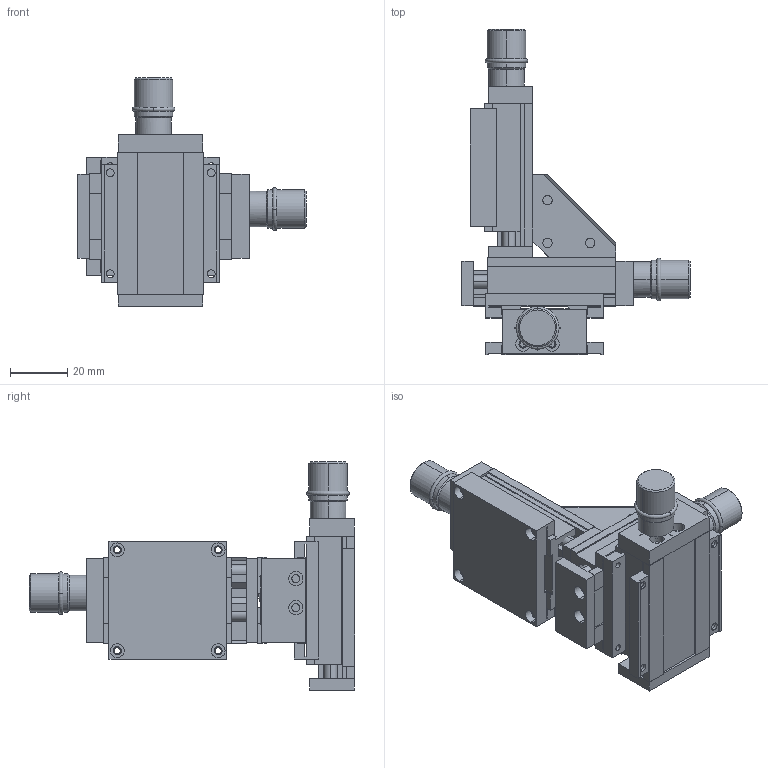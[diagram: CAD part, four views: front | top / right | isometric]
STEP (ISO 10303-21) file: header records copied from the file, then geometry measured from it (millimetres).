
FILE_DESCRIPTION (( 'STEP AP203' ), '1' );
FILE_NAME ('dL 30 XYZ.STEP', '2001-10-08T10:19:15', ( '' ), ( '' ), 'SwSTEP 2.0', 'SolidWorks 2001239', '' );
FILE_SCHEMA (( 'CONFIG_CONTROL_DESIGN' ));
Length unit declared in the file: millimetre
Products named in the file (8): dL 30 XYZ; X-Y Verbindung dL30-+-D009118_ ; X-Z Verbindung dL30-+-D009119_ ; Aussen 30 lght-+-D007617_ ; Innenteil 30-+-D007616_ ; Montageplatte 30-+-D009117_ ; Befestigungssatz_B_30-+-D013681_ ; Klemmleiste_dL_50-+-D013680_ 
Assembly tree (12 placements, depth 3):
  dL 30 XYZ
    Montageplatte 30-+-D009117_ 
    Aussen 30 lght-+-D007617_   x3
    Innenteil 30-+-D007616_   x3
    Befestigungssatz_B_30-+-D013681_ 
      Klemmleiste_dL_50-+-D013680_   x2
    X-Y Verbindung dL30-+-D009118_ 
    X-Z Verbindung dL30-+-D009119_ 
Bounding box: 80 x 114 x 80 mm (x, y, z)
Volume: 101210.8 mm3; surface area: 64610.9 mm2
Topology: 11 solids, 11 shells, 667 faces, 1667 edges, 1088 vertices
Faces by surface type: plane 426, cylinder 223, cone 12, torus 6
Entity records: 11057 total; most frequent: DIRECTION 1791, CARTESIAN_POINT 1738, ORIENTED_EDGE 1682, EDGE_CURVE 841, AXIS2_PLACEMENT_3D 605, LINE 581, VECTOR 581, VERTEX_POINT 552
